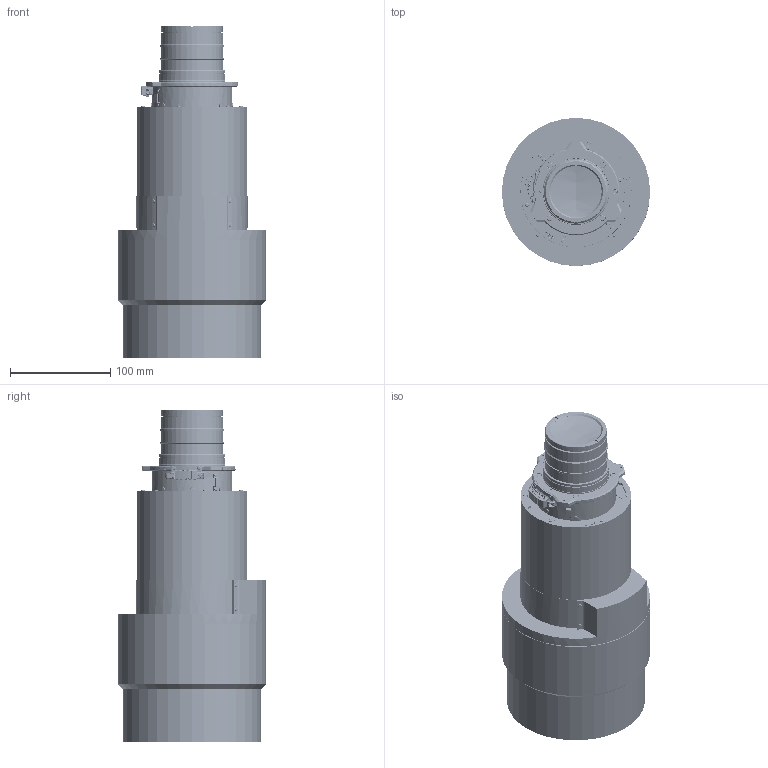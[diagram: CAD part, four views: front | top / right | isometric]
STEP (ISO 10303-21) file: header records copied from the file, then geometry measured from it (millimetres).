
FILE_DESCRIPTION((''),'2;1');
FILE_NAME('PJ-LENS-A27_ASM','2021-11-23T',('kang.wu'),(''),'CREO PARAMETRIC BY PTC INC, 2018360','CREO PARAMETRIC BY PTC INC, 2018360','');
FILE_SCHEMA(('AUTOMOTIVE_DESIGN { 1 0 10303 214 1 1 1 1 }'));
Products named in the file (3): A27-PJ-LENS-FLANGE; A27_PJ-LENS-20201026; PJ-LENS-A27_ASM
Assembly tree (2 placements, depth 2):
  PJ-LENS-A27_ASM
    A27-PJ-LENS-FLANGE
    A27_PJ-LENS-20201026
Bounding box: 148 x 148 x 331.69 mm (x, y, z)
Volume: 93380.6 mm3; surface area: 553907.7 mm2
Topology: 81 solids, 100 shells, 9027 faces, 24426 edges, 15918 vertices
Faces by surface type: cylinder 6175, plane 1754, cone 682, torus 317, bspline 91, sphere 8
Entity records: 369057 total; most frequent: CARTESIAN_POINT 66064, DIRECTION 54697, ORIENTED_EDGE 48888, EDGE_CURVE 24444, AXIS2_PLACEMENT_3D 22425, VERTEX_POINT 15930, CIRCLE 13482, VECTOR 9847
